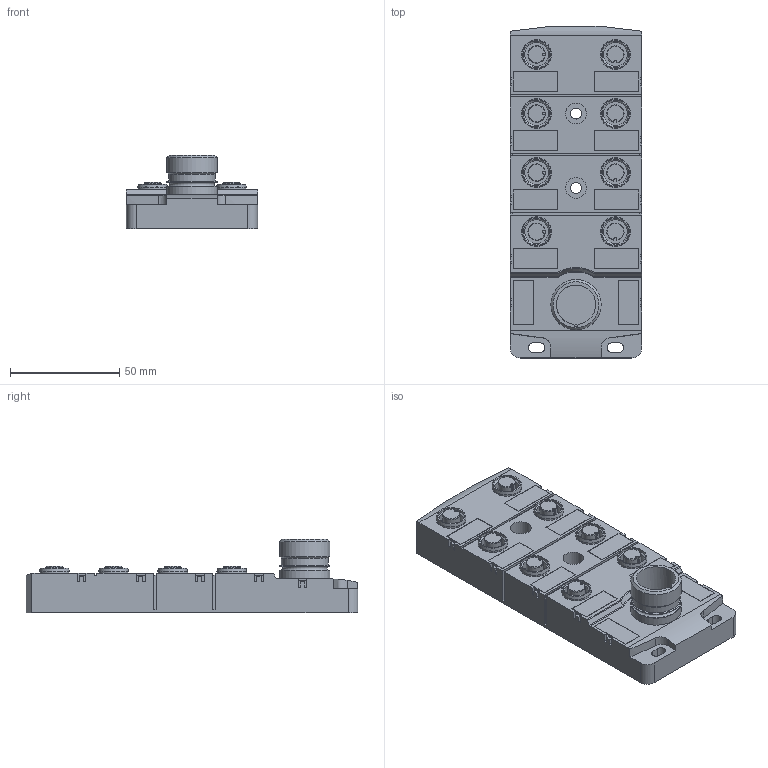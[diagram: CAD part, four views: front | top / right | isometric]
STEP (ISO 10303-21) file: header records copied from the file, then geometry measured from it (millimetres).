
FILE_DESCRIPTION( ( 'STEP AP203' ), ' ' );
FILE_NAME( 'p:/temp/worker_12/3972_3860/app_78_02015083108164093926999192d056f_000000_00_00_000000/format_3/EBC009.stp', '2015-08-31T06:16:45', ( '' ), ( '' ), ' ', 'PARTsolutions', ' ' );
FILE_SCHEMA( ( 'CONFIG_CONTROL_DESIGN' ) );
Length unit declared in the file: millimetre
Products named in the file (1): _EBC009
Bounding box: 60 x 151.71 x 33.5 mm (x, y, z)
Volume: 151030.5 mm3; surface area: 40493 mm2
Topology: 1 solids, 1 shells, 555 faces, 1461 edges, 958 vertices
Faces by surface type: plane 433, cylinder 83, cone 36, torus 3
Full cylindrical faces by diameter (mm): 5 x2, 7.9 x4, 9.5 x2, 10.917 x8, 11.8 x8, 12.2 x8, 13.6 x8, 18 x1, 21.4 x1, 22.9 x1, 23 x2
Entity records: 16756 total; most frequent: CARTESIAN_POINT 3065, ORIENTED_EDGE 2764, DIRECTION 2654, EDGE_CURVE 1382, LINE 1168, VECTOR 1168, VERTEX_POINT 952, EDGE_LOOP 744
